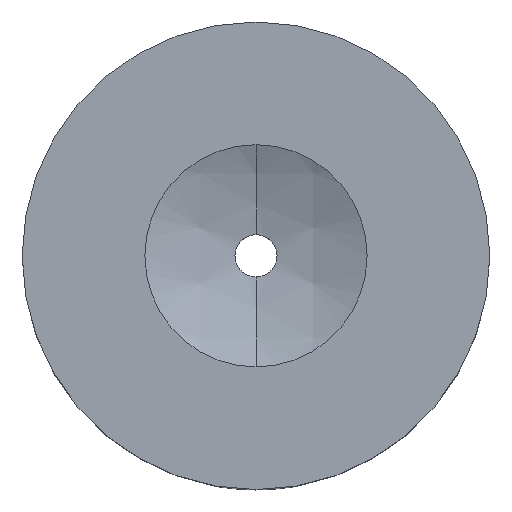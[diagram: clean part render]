
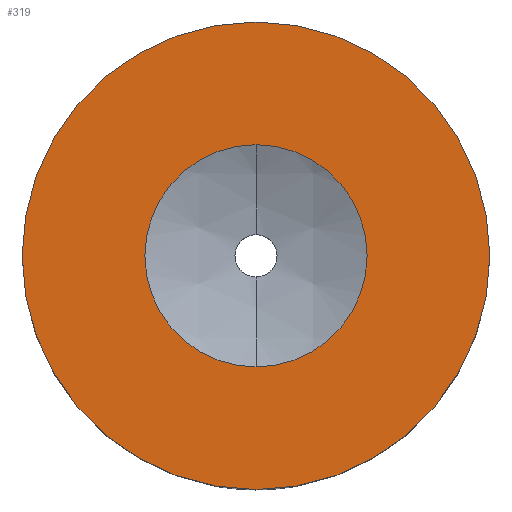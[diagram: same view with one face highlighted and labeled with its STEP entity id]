
A CAD part, top view. The second image highlights one B-rep face of the part: STEP entity #319.
In plain terms, the highlighted planar face has unit normal (0, 0, 1).
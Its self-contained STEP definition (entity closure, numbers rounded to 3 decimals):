
#19 = AXIS2_PLACEMENT_3D ( 'NONE', #119, #337, #437 ) ;
#27 = EDGE_CURVE ( 'NONE', #503, #586, #105, .T. ) ;
#29 = PLANE ( 'NONE',  #424 ) ;
#31 = CARTESIAN_POINT ( 'NONE',  ( -14., 0., 0. ) ) ;
#34 = CARTESIAN_POINT ( 'NONE',  ( 0., -1.25, 0. ) ) ;
#37 = CARTESIAN_POINT ( 'NONE',  ( 0., 0., 0. ) ) ;
#43 = DIRECTION ( 'NONE',  ( 0., 0., -1. ) ) ;
#60 = CARTESIAN_POINT ( 'NONE',  ( 14., 0., 0. ) ) ;
#70 = DIRECTION ( 'NONE',  ( 1., 0., 0. ) ) ;
#84 = DIRECTION ( 'NONE',  ( 0., 0., 1. ) ) ;
#105 = CIRCLE ( 'NONE', #19, 14. ) ;
#119 = CARTESIAN_POINT ( 'NONE',  ( 0., 0., 0. ) ) ;
#131 = CIRCLE ( 'NONE', #241, 6.652 ) ;
#133 = FACE_OUTER_BOUND ( 'NONE', #263, .T. ) ;
#201 = DIRECTION ( 'NONE',  ( -1., 0., 0. ) ) ;
#205 = AXIS2_PLACEMENT_3D ( 'NONE', #430, #652, #70 ) ;
#209 = EDGE_LOOP ( 'NONE', ( #311, #265 ) ) ;
#214 = ORIENTED_EDGE ( 'NONE', *, *, #27, .T. ) ;
#241 = AXIS2_PLACEMENT_3D ( 'NONE', #447, #554, #446 ) ;
#242 = EDGE_CURVE ( 'NONE', #586, #503, #387, .T. ) ;
#263 = EDGE_LOOP ( 'NONE', ( #214, #633 ) ) ;
#265 = ORIENTED_EDGE ( 'NONE', *, *, #502, .T. ) ;
#269 = VERTEX_POINT ( 'NONE', #648 ) ;
#285 = DIRECTION ( 'NONE',  ( 1., 0., 0. ) ) ;
#311 = ORIENTED_EDGE ( 'NONE', *, *, #366, .T. ) ;
#319 = ADVANCED_FACE ( 'NONE', ( #657, #133 ), #29, .T. ) ;
#337 = DIRECTION ( 'NONE',  ( 0., 0., 1. ) ) ;
#366 = EDGE_CURVE ( 'NONE', #269, #472, #131, .T. ) ;
#387 = CIRCLE ( 'NONE', #205, 14. ) ;
#410 = CIRCLE ( 'NONE', #594, 6.652 ) ;
#424 = AXIS2_PLACEMENT_3D ( 'NONE', #34, #84, #285 ) ;
#430 = CARTESIAN_POINT ( 'NONE',  ( 0., 0., 0. ) ) ;
#437 = DIRECTION ( 'NONE',  ( 1., 0., 0. ) ) ;
#446 = DIRECTION ( 'NONE',  ( -1., 0., 0. ) ) ;
#447 = CARTESIAN_POINT ( 'NONE',  ( 0., 0., 0. ) ) ;
#472 = VERTEX_POINT ( 'NONE', #499 ) ;
#499 = CARTESIAN_POINT ( 'NONE',  ( 0., -6.652, 0. ) ) ;
#502 = EDGE_CURVE ( 'NONE', #472, #269, #410, .T. ) ;
#503 = VERTEX_POINT ( 'NONE', #60 ) ;
#554 = DIRECTION ( 'NONE',  ( 0., 0., -1. ) ) ;
#586 = VERTEX_POINT ( 'NONE', #31 ) ;
#594 = AXIS2_PLACEMENT_3D ( 'NONE', #37, #43, #201 ) ;
#633 = ORIENTED_EDGE ( 'NONE', *, *, #242, .T. ) ;
#648 = CARTESIAN_POINT ( 'NONE',  ( 0., 6.652, 0. ) ) ;
#652 = DIRECTION ( 'NONE',  ( 0., 0., 1. ) ) ;
#657 = FACE_BOUND ( 'NONE', #209, .T. ) ;
